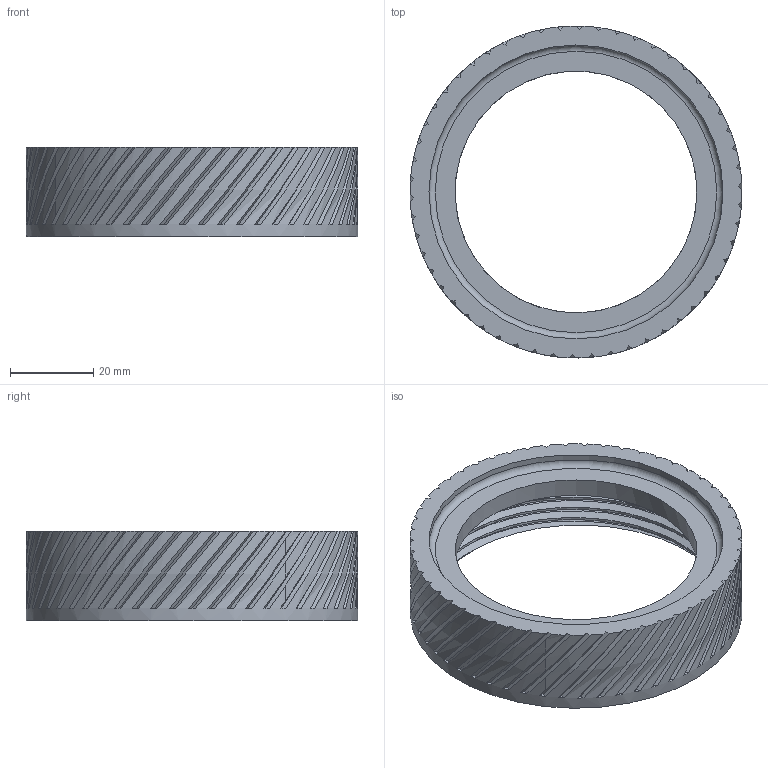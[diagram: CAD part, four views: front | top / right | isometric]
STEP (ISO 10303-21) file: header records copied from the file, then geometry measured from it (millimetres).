
FILE_DESCRIPTION(/* description */ ('STEP AP242','CAx-IF Rec.Pracs.---Representation and Presentation of Product Manufacturing Information (PMI)---4.0---2014-10-13','CAx-IF Rec.Pracs.---3D Tessellated Geometry---0.4---2014-09-14','2;1'),/* implementation_level */ '2;1');
FILE_NAME(/* name */ '64692656cac4670533c210e2',/* time_stamp */ '2023-05-20T19:58:15Z',/* author */ (''),/* organization */ (''),/* preprocessor_version */ 'ST-DEVELOPER v19.4',/* originating_system */ ' ',/* authorisation */ ' ');
FILE_SCHEMA (('AP242_MANAGED_MODEL_BASED_3D_ENGINEERING_MIM_LF { 1 0 10303 442 1 1 4 }'));
Length unit declared in the file: metre
Products named in the file (1): Base 26mm NoMagnet NoLug
Bounding box: 79.6 x 79.6 x 21.4 mm (x, y, z)
Volume: 27929 mm3; surface area: 16207.3 mm2
Topology: 1 solids, 1 shells, 228 faces, 667 edges, 445 vertices
Faces by surface type: bspline 152, plane 64, cylinder 7, cone 4, torus 1
Full cylindrical faces by diameter (mm): 58 x1, 70.5 x1, 79.6 x1
Entity records: 14158 total; most frequent: CARTESIAN_POINT 9774, ORIENTED_EDGE 1300, EDGE_CURVE 650, VERTEX_POINT 436, DIRECTION 431, B_SPLINE_CURVE_WITH_KNOTS 323, EDGE_LOOP 236, FACE_BOUND 236
